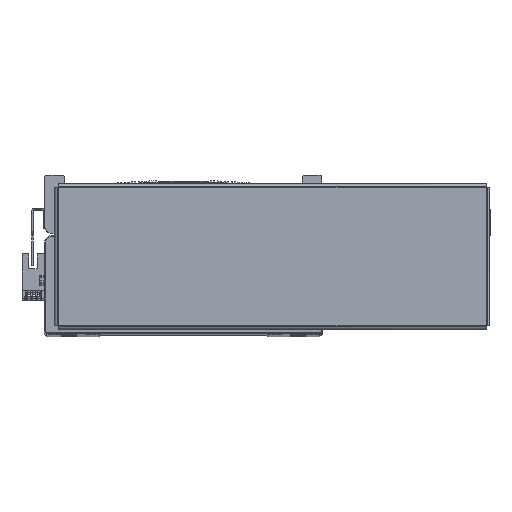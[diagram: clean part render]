
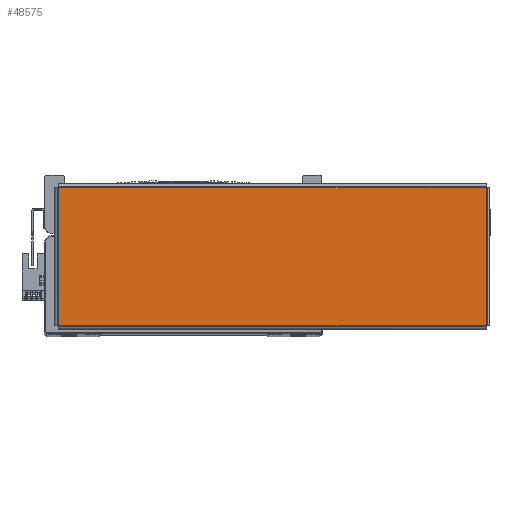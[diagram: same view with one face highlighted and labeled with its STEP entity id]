
A CAD part, top view. The second image highlights one B-rep face of the part: STEP entity #48575.
In plain terms, the highlighted planar face has unit normal (0, 0, 1) as drawn and (0, -1, 0) by its records, which use the part's own axes.
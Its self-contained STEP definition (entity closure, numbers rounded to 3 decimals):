
#4916 = CARTESIAN_POINT ( 'NONE',  ( 130.863, -1.5, 42.263 ) ) ;
#4970 = CARTESIAN_POINT ( 'NONE',  ( -130.863, -1.5, -42.263 ) ) ;
#5001 = CARTESIAN_POINT ( 'NONE',  ( -130.863, -1.5, 42.263 ) ) ;
#5100 = CARTESIAN_POINT ( 'NONE',  ( 130.863, -1.5, -42.263 ) ) ;
#13049 = PLANE ( 'NONE',  #19117 ) ;
#13051 = DIRECTION ( 'NONE',  ( 0., 0., 1. ) ) ;
#13070 = DIRECTION ( 'NONE',  ( 0., 1., 0. ) ) ;
#13111 = CARTESIAN_POINT ( 'NONE',  ( 0., -1.5, 0. ) ) ;
#15282 = DIRECTION ( 'NONE',  ( 0., 0., -1. ) ) ;
#15290 = CARTESIAN_POINT ( 'NONE',  ( -130.863, -1.5, 42.293 ) ) ;
#15316 = CARTESIAN_POINT ( 'NONE',  ( -130.893, -1.5, -42.263 ) ) ;
#15322 = DIRECTION ( 'NONE',  ( 1., 0., 0. ) ) ;
#15346 = CARTESIAN_POINT ( 'NONE',  ( 130.893, -1.5, 42.263 ) ) ;
#15361 = DIRECTION ( 'NONE',  ( 0., 0., 1. ) ) ;
#15365 = DIRECTION ( 'NONE',  ( -1., 0., 0. ) ) ;
#15373 = CARTESIAN_POINT ( 'NONE',  ( 130.863, -1.5, -42.293 ) ) ;
#16494 = ORIENTED_EDGE ( 'NONE', *, *, #57286, .T. ) ;
#16510 = ORIENTED_EDGE ( 'NONE', *, *, #57281, .T. ) ;
#16526 = ORIENTED_EDGE ( 'NONE', *, *, #57263, .T. ) ;
#16581 = ORIENTED_EDGE ( 'NONE', *, *, #57234, .T. ) ;
#19117 = AXIS2_PLACEMENT_3D ( 'NONE', #13111, #13070, #13051 ) ;
#24786 = LINE ( 'NONE', #15290, #24800 ) ;
#24800 = VECTOR ( 'NONE', #15282, 1000. ) ;
#24823 = LINE ( 'NONE', #15373, #24852 ) ;
#24833 = LINE ( 'NONE', #15346, #24836 ) ;
#24836 = VECTOR ( 'NONE', #15365, 1000. ) ;
#24838 = VECTOR ( 'NONE', #15322, 1000. ) ;
#24852 = VECTOR ( 'NONE', #15361, 1000. ) ;
#24897 = LINE ( 'NONE', #15316, #24838 ) ;
#32348 = FACE_OUTER_BOUND ( 'NONE', #58312, .T. ) ;
#48575 = ADVANCED_FACE ( 'NONE', ( #32348 ), #13049, .F. ) ;
#57234 = EDGE_CURVE ( 'NONE', #62861, #62868, #24786, .T. ) ;
#57263 = EDGE_CURVE ( 'NONE', #62868, #62905, #24897, .T. ) ;
#57281 = EDGE_CURVE ( 'NONE', #62905, #62867, #24823, .T. ) ;
#57286 = EDGE_CURVE ( 'NONE', #62867, #62861, #24833, .T. ) ;
#58312 = EDGE_LOOP ( 'NONE', ( #16510, #16494, #16581, #16526 ) ) ;
#62861 = VERTEX_POINT ( 'NONE', #5001 ) ;
#62867 = VERTEX_POINT ( 'NONE', #4916 ) ;
#62868 = VERTEX_POINT ( 'NONE', #4970 ) ;
#62905 = VERTEX_POINT ( 'NONE', #5100 ) ;
